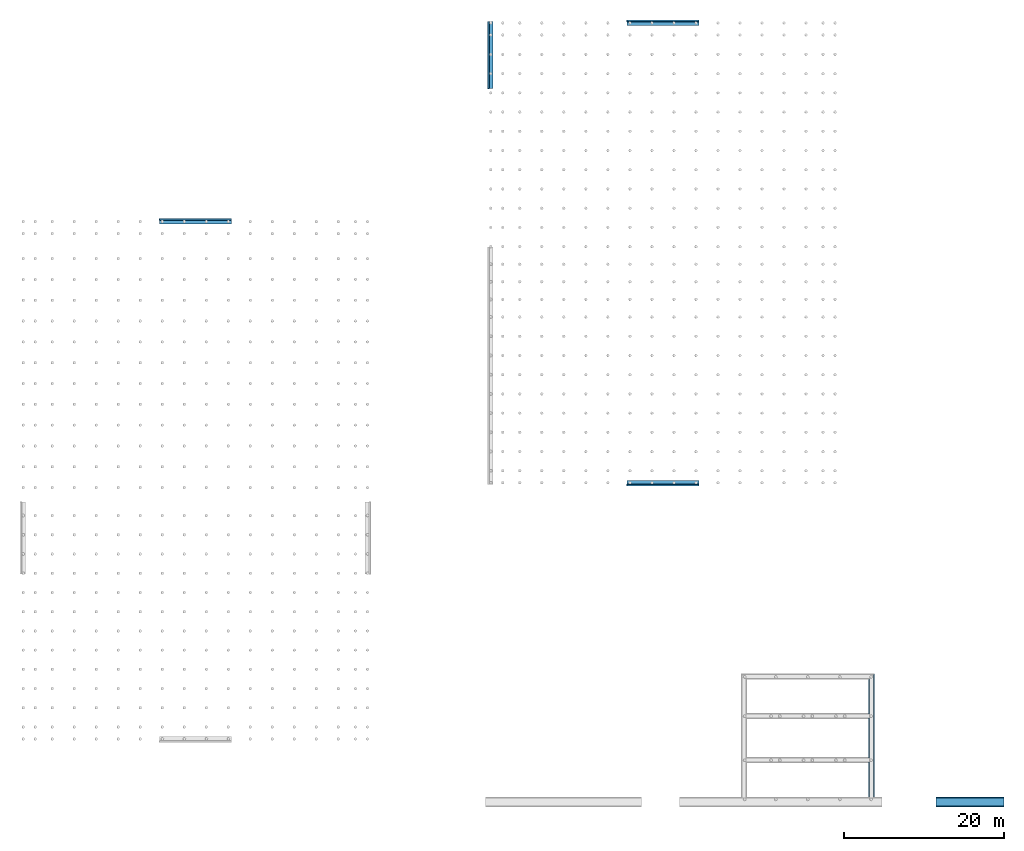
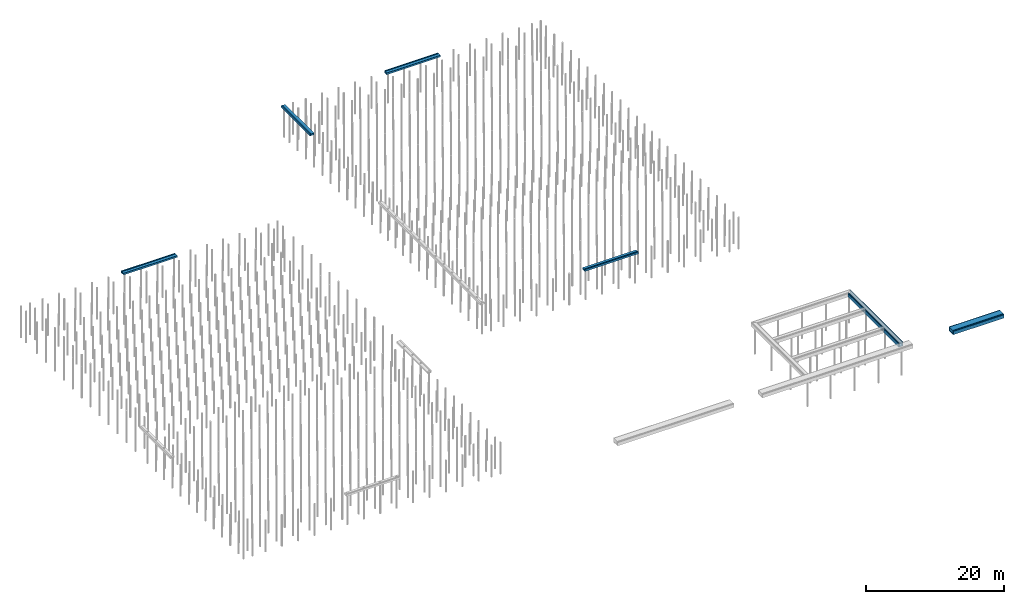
# One storey, part 3 of 102: 11 beams.
"""IFC2X3 building model written with IfcOpenShell, lengths in millimetres."""

from ifc_helpers import new_model, entity, si_unit, converted_unit, derived_unit, money_unit, direction, frame, origin_with_axes, place, context, subcontext, project, spatial, faceted_brep, material, type_object, element, save


model = new_model("IFC2X3")

# Units and contexts
model_context = context("Model", 3, precision=0.01, world=origin_with_axes(), true_north=direction((0.0, 1.0)))
body_context = subcontext(model_context, "Body", "Model", "MODEL_VIEW")
ifc_project = project(units=[si_unit("LENGTHUNIT", "METRE", prefix="MILLI"), si_unit("AREAUNIT", "SQUARE_METRE"), si_unit("VOLUMEUNIT", "CUBIC_METRE"), converted_unit("PLANEANGLEUNIT", "DEGREE", entity("IfcPlaneAngleMeasure", 0.0174532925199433), si_unit("PLANEANGLEUNIT", "RADIAN"), dimensions=[0, 0, 0, 0, 0, 0, 0]), money_unit("EUR"), converted_unit("TIMEUNIT", "Year", entity("IfcTimeMeasure", 31557600.0), si_unit("TIMEUNIT", "SECOND"), dimensions=[0, 0, 1, 0, 0, 0, 0]), si_unit("MASSUNIT", "GRAM", prefix="KILO"), si_unit("THERMODYNAMICTEMPERATUREUNIT", "DEGREE_CELSIUS"), si_unit("LUMINOUSINTENSITYUNIT", "LUMEN"), si_unit("ENERGYUNIT", "JOULE", prefix="MEGA"), derived_unit("THERMALCONDUCTANCEUNIT", [(si_unit("POWERUNIT", "WATT"), 1), (si_unit("LENGTHUNIT", "METRE"), -1), (si_unit("THERMODYNAMICTEMPERATUREUNIT", "KELVIN"), -1)]), derived_unit("SPECIFICHEATCAPACITYUNIT", [(si_unit("ENERGYUNIT", "JOULE"), 1), (si_unit("MASSUNIT", "GRAM", prefix="KILO"), -1), (si_unit("THERMODYNAMICTEMPERATUREUNIT", "KELVIN"), -1)]), derived_unit("MASSDENSITYUNIT", [(si_unit("MASSUNIT", "GRAM", prefix="KILO"), 1), (si_unit("VOLUMEUNIT", "CUBIC_METRE"), -1)])], contexts=[model_context])

# Site, building, storey
site_placement = place(None, origin_with_axes())
site = spatial("IfcSite", under=ifc_project, at=site_placement, Name="Site", CompositionType="ELEMENT")
building_placement = place(site_placement, origin_with_axes())
building = spatial("IfcBuilding", under=site, at=building_placement, Name="Naam gebouw", CompositionType="ELEMENT")
storey_placement = place(building_placement, frame((0.0, 0.0, -1020.0), z_axis=(0.0, 0.0, 1.0), x_axis=(1.0, 0.0, 0.0)))
storey = spatial("IfcBuildingStorey", under=building, at=storey_placement, Name="-2 fundering", CompositionType="ELEMENT", Elevation=-1020.0)

# Beams
ifc_material_1 = material(Name="Beton gewapend C")
beam_type_1 = type_object("IfcBeamType", Name="Beton gewapend C 1000 x 600", PredefinedType="BEAM")
beam_1_placement = place(storey_placement, frame((147900.0, 22449.99999999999, 600.0000000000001), z_axis=(0.0, 0.0, 1.0), x_axis=(0.0, 1.0, 0.0)))
element("IfcBeam", 1, at=beam_1_placement, inside=storey, type_object=beam_type_1, material=ifc_material_1, Name="Balk-x", ObjectType="BEAM", context=body_context, shape_type="Brep", body=[
    faceted_brep([(-699.9999999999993, 0.0, -600.0000000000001), (-699.9999999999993, 8500.0, -600.0000000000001), (300.0000000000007, 8500.0, -600.0000000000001), (300.0000000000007, 0.0, -600.0000000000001), (-699.9999999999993, 0.0, 0.0), (-699.9999999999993, 8500.0, 0.0), (300.0000000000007, 8500.0, 0.0), (300.0000000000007, 0.0, 0.0)], [[[0, 1, 2, 3]], [[4, 5, 1, 0]], [[2, 1, 5, 6]], [[3, 2, 6, 7]], [[4, 0, 3, 7]], [[7, 6, 5, 4]]]),
])
ifc_material_2 = material(Name="Isolatie - Kunststof hard")
beam_type_2 = type_object("IfcBeamType", Name="Fundering - EPS bekisting KME 1240 x 720", PredefinedType="BEAM")
beam_2_placement = place(storey_placement, frame((147900.0, 22249.99999999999, 600.0000000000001), z_axis=(0.0, 0.0, 1.0), x_axis=(0.0, 1.0, 0.0)))
element("IfcBeam", 2, at=beam_2_placement, inside=storey, type_object=beam_type_2, material=ifc_material_2, Name="wvb.", ObjectType="BEAM", context=body_context, shape_type="Brep", body=[
    faceted_brep([(-461.8644067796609, 0.0, -600.0000000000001), (461.8644067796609, 0.0, -600.0000000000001), (461.8644067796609, 8500.0, -600.0000000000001), (-461.8644067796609, 8500.0, -600.0000000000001), (500.0, 0.0, 0.0), (500.0, 0.0, -600.0000000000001), (-500.0, 0.0, -600.0000000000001), (-500.0, 0.0, 0.0), (-600.0000000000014, 0.0, 0.0), (-600.0000000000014, 0.0, -101.4342864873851), (-620.000000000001, 0.0, -130.935084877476), (-620.000000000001, 0.0, -720.0), (620.000000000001, 0.0, -720.0), (619.9999999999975, 0.0, -130.935084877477), (599.9999999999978, 0.0, -101.4342864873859), (599.9999999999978, 0.0, 0.0), (500.0, 8500.0, -600.0000000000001), (500.0, 8500.0, 0.0), (599.9999999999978, 8500.0, 0.0), (599.9999999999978, 8500.0, -101.4342864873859), (620.000000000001, 8500.0, -130.935084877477), (620.000000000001, 8500.0, -720.0), (-620.000000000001, 8500.0, -720.0), (-620.000000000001, 8500.0, -130.935084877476), (-599.9999999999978, 8500.0, -101.4342864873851), (-599.9999999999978, 8500.0, 0.0), (-500.0, 8500.0, 0.0), (-500.0, 8500.0, -600.0000000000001)], [[[0, 1, 2, 3]], [[4, 5, 1, 0, 6, 7, 8, 9, 10, 11, 12, 13, 14, 15]], [[2, 1, 5, 16]], [[2, 16, 17, 18, 19, 20, 21, 22, 23, 24, 25, 26, 27, 3]], [[27, 6, 0, 3]], [[16, 5, 4, 17]], [[27, 26, 7, 6]], [[8, 7, 26, 25]], [[9, 8, 25, 24]], [[10, 9, 24, 23]], [[11, 10, 23, 22]], [[12, 11, 22, 21]], [[13, 12, 21, 20]], [[14, 13, 20, 19]], [[15, 14, 19, 18]], [[18, 17, 4, 15]]]),
])
ifc_material_3 = material(Name="Beton gewapend C vloer")
beam_type_3 = type_object("IfcBeamType", Name="Beton gewapend C vloer 200 x 350", PredefinedType="BEAM")
beam_3_placement = place(storey_placement, frame((83499.99999999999, 119700.0, 474.9999999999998), z_axis=(0.0, 0.0, 1.0), x_axis=(-1.0, 0.0, 0.0)))
element("IfcBeam", 3, at=beam_3_placement, inside=storey, type_object=beam_type_3, material=ifc_material_3, Name="wvb.", ObjectType="BEAM", context=body_context, shape_type="Brep", body=[
    faceted_brep([(99.99999999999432, 0.0, 175.0), (99.99999999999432, 8360.0, 175.0), (-99.99999999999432, 8360.0, 175.0), (-99.99999999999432, 0.0, 175.0), (99.99999999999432, 0.0, -174.9999999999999), (99.99999999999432, 8360.0, -174.9999999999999), (-99.99999999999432, 8360.0, -174.9999999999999), (-99.99999999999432, 0.0, -174.9999999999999)], [[[0, 1, 2, 3]], [[4, 5, 1, 0]], [[2, 1, 5, 6]], [[3, 2, 6, 7]], [[4, 0, 3, 7]], [[7, 6, 5, 4]]]),
])
for number, where, z_axis, x_axis in (
    (4, (51400.00000000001, 94999.99999999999, 474.9999999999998), (0.0, 0.0, 1.0), (0.0, 1.0, 0.0)),
    (5, (109800.0, 119800.0, 474.9999999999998), (0.0, 0.0, 1.0), (0.0, 1.0, 0.0)),
):
    element("IfcBeam", number, at=place(storey_placement, frame(where, z_axis=z_axis, x_axis=x_axis)), inside=storey, type_object=beam_type_3, material=ifc_material_3, Name="wvb.", ObjectType="BEAM", context=body_context, shape_type="Brep", body=[
        faceted_brep([(99.99999999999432, 0.0, 175.0), (99.99999999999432, 9000.00000000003, 175.0), (-100.0000000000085, 9000.00000000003, 175.0), (-99.99999999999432, 0.0, 175.0), (99.99999999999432, 0.0, -174.9999999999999), (99.99999999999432, 9000.00000000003, -174.9999999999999), (-100.0000000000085, 9000.00000000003, -174.9999999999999), (-99.99999999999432, 0.0, -174.9999999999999)], [[[0, 1, 2, 3]], [[4, 5, 1, 0]], [[2, 1, 5, 6]], [[3, 2, 6, 7]], [[4, 0, 3, 7]], [[7, 6, 5, 4]]]),
    ])
beam_4_placement = place(storey_placement, frame((100800.0, 61800.00000000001, 474.9999999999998), z_axis=(0.0, 0.0, 1.0), x_axis=(0.0, -1.0, 0.0)))
element("IfcBeam", 6, at=beam_4_placement, inside=storey, type_object=beam_type_3, material=ifc_material_3, Name="wvb.", ObjectType="BEAM", context=body_context, shape_type="Brep", body=[
    faceted_brep([(100.0000000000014, 0.0, 175.0), (100.0000000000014, 9000.000000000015, 175.0), (-100.0000000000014, 9000.000000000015, 175.0), (-100.0000000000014, 0.0, 175.0), (100.0000000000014, 0.0, -174.9999999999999), (100.0000000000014, 9000.000000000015, -174.9999999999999), (-100.0000000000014, 9000.000000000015, -174.9999999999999), (-100.0000000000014, 0.0, -174.9999999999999)], [[[0, 1, 2, 3]], [[4, 5, 1, 0]], [[2, 1, 5, 6]], [[3, 2, 6, 7]], [[4, 0, 3, 7]], [[7, 6, 5, 4]]]),
])
beam_type_4 = type_object("IfcBeamType", Name="Beton gewapend C vloer 500 x 300", PredefinedType="BEAM")
beam_5_placement = place(storey_placement, frame((83850.0, 119700.0, 449.9999999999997), z_axis=(0.0, 0.0, 1.0), x_axis=(-1.0, 0.0, 0.0)))
element("IfcBeam", 7, at=beam_5_placement, inside=storey, type_object=beam_type_4, material=ifc_material_3, Name="wvb.", ObjectType="BEAM", context=body_context, shape_type="Brep", body=[
    faceted_brep([(250.0, 0.0, 150.0), (250.0, 8360.0, 150.0), (-250.0, 8360.0, 149.9999999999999), (-250.0, 0.0, 149.9999999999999), (250.0, 0.0, -149.9999999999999), (250.0, 8360.0, -149.9999999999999), (-250.0, 8360.0, -150.0), (-250.0, 0.0, -150.0)], [[[0, 1, 2, 3]], [[4, 5, 1, 0]], [[2, 1, 5, 6]], [[3, 2, 6, 7]], [[4, 0, 3, 7]], [[7, 6, 5, 4]]]),
])
for number, where, z_axis, x_axis in (
    (8, (109800.0, 119450.0, 449.9999999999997), (0.0, 0.0, 1.0), (0.0, 1.0, 0.0)),
    (9, (51400.00000000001, 94649.99999999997, 449.9999999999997), (0.0, 0.0, 1.0), (0.0, 1.0, 0.0)),
):
    element("IfcBeam", number, at=place(storey_placement, frame(where, z_axis=z_axis, x_axis=x_axis)), inside=storey, type_object=beam_type_4, material=ifc_material_3, Name="wvb.", ObjectType="BEAM", context=body_context, shape_type="Brep", body=[
        faceted_brep([(250.0, 0.0, 150.0), (250.0, 9000.00000000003, 150.0), (-250.0, 9000.00000000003, 149.9999999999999), (-250.0, 0.0, 149.9999999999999), (250.0, 0.0, -149.9999999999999), (250.0, 9000.00000000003, -149.9999999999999), (-250.0, 9000.00000000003, -150.0), (-250.0, 0.0, -150.0)], [[[0, 1, 2, 3]], [[4, 5, 1, 0]], [[2, 1, 5, 6]], [[3, 2, 6, 7]], [[4, 0, 3, 7]], [[7, 6, 5, 4]]]),
    ])
beam_6_placement = place(storey_placement, frame((100800.0, 62150.00000000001, 449.9999999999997), z_axis=(0.0, 0.0, 1.0), x_axis=(0.0, -1.0, 0.0)))
element("IfcBeam", 10, at=beam_6_placement, inside=storey, type_object=beam_type_4, material=ifc_material_3, Name="wvb.", ObjectType="BEAM", context=body_context, shape_type="Brep", body=[
    faceted_brep([(250.0, 0.0, 150.0), (250.0, 9000.000000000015, 150.0), (-250.0, 9000.000000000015, 149.9999999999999), (-250.0, 0.0, 149.9999999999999), (250.0, 0.0, -149.9999999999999), (250.0, 9000.000000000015, -149.9999999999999), (-250.0, 9000.000000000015, -150.0), (-250.0, 0.0, -150.0)], [[[0, 1, 2, 3]], [[4, 5, 1, 0]], [[2, 1, 5, 6]], [[3, 2, 6, 7]], [[4, 0, 3, 7]], [[7, 6, 5, 4]]]),
])
beam_type_5 = type_object("IfcBeamType", Name="Fundering - EPS bekisting KME 740 x 720", PredefinedType="BEAM")
beam_7_placement = place(storey_placement, frame((131349.9999756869, 37899.99997568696, 600.0000000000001), z_axis=(0.0, 0.0, 1.0), x_axis=(-1.0, 0.0, 0.0)))
element("IfcBeam", 11, at=beam_7_placement, inside=storey, type_object=beam_type_5, material=ifc_material_2, Name="wvb.", ObjectType="BEAM", context=body_context, shape_type="Brep", body=[
    faceted_brep([(250.0, 10199.99997568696, 0.0), (250.0, 5199.999975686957, 0.0), (349.9999999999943, 5199.999975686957, 0.0), (349.9999999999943, 10199.99997568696, 0.0), (250.0, 10199.99997568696, -600.0000000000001), (250.0, 5199.999975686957, -600.0000000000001), (370.0000000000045, 5199.999975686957, -600.0000000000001), (370.0000000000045, 5199.999975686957, -130.935084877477), (349.9999999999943, 5199.999975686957, -101.4342864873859), (349.9999999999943, 10199.99997568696, -101.4342864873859), (370.0000000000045, 10199.99997568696, -130.935084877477), (370.0000000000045, 10199.99997568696, -600.0000000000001), (250.0, 249.9999999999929, -600.0000000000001), (250.0, 4699.999975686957, -600.0000000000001), (250.0, 10699.99997568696, -600.0000000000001), (250.0, 15029.99997568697, -600.0000000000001), (-250.0, 15029.99997568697, -600.0000000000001), (-250.0, -249.9999999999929, -600.0000000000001), (370.0000000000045, 4699.999975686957, -600.0000000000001), (370.0000000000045, 15029.99997568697, -130.935084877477), (370.0000000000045, 10699.99997568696, -130.935084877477), (370.0000000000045, 10699.99997568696, -600.0000000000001), (370.0000000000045, 4699.999975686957, -130.935084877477), (370.0000000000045, 369.9999999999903, -130.935084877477), (370.0000000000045, 369.9999999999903, -720.0), (370.0000000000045, 15029.99997568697, -720.0), (250.0, 4699.999975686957, 0.0), (250.0, 249.9999999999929, 0.0), (250.0, 15049.99997568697, -101.4342864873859), (250.0, 15029.99997568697, -130.935084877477), (250.0, 10699.99997568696, 0.0), (250.0, 15049.99997568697, 0.0), (-370.0000000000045, 15029.99997568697, -720.0), (-370.0000000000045, 15029.99997568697, -130.935084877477), (-250.0, 15029.99997568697, -130.935084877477), (-250.0, 15049.99997568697, 0.0), (-250.0, -249.9999999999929, 0.0), (-250.0, 15049.99997568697, -101.4342864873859), (349.9999999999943, 349.9999999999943, -101.4342864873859), (349.9999999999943, 349.9999999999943, 0.0), (-349.9999999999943, -349.9999999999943, 0.0), (-349.9999999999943, -349.9999999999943, -101.4342864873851), (-370.0000000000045, -369.9999999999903, -130.935084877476), (-370.0000000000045, -369.9999999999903, -720.0), (349.9999999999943, 4699.999975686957, 0.0), (349.9999999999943, 4699.999975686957, -101.4342864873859), (349.9999999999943, 15049.99997568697, -101.4342864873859), (349.9999999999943, 10699.99997568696, -101.4342864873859), (349.9999999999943, 10699.99997568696, 0.0), (349.9999999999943, 15049.99997568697, 0.0), (-349.9999999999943, 15049.99997568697, -101.4342864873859), (-349.9999999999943, 15049.99997568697, 0.0)], [[[0, 1, 2, 3]], [[4, 5, 1, 0]], [[5, 6, 7, 8, 2, 1]], [[3, 2, 8, 9]], [[9, 10, 11, 4, 0, 3]], [[12, 13, 5, 4, 14, 15, 16, 17]], [[5, 13, 18, 6]], [[19, 20, 21, 11, 10, 7, 6, 18, 22, 23, 24, 25]], [[9, 8, 7, 10]], [[4, 11, 21, 14]], [[26, 13, 12, 27]], [[28, 29, 15, 14, 30, 31]], [[16, 15, 29, 19, 25, 32, 33, 34]], [[35, 36, 17, 16, 34, 37]], [[24, 23, 38, 39, 27, 12, 17, 36, 40, 41, 42, 43]], [[44, 45, 22, 18, 13, 26]], [[20, 19, 46, 47]], [[21, 20, 47, 48, 30, 14]], [[22, 45, 38, 23]], [[43, 32, 25, 24]], [[44, 26, 27, 39]], [[19, 29, 28, 46]], [[48, 49, 31, 30]], [[46, 28, 31, 49]], [[42, 33, 32, 43]], [[34, 33, 50, 37]], [[36, 35, 51, 40]], [[37, 50, 51, 35]], [[45, 44, 39, 38]], [[40, 51, 50, 41]], [[41, 50, 33, 42]], [[47, 46, 49, 48]]]),
])

save(model, "model.ifc")
